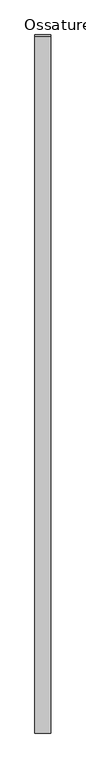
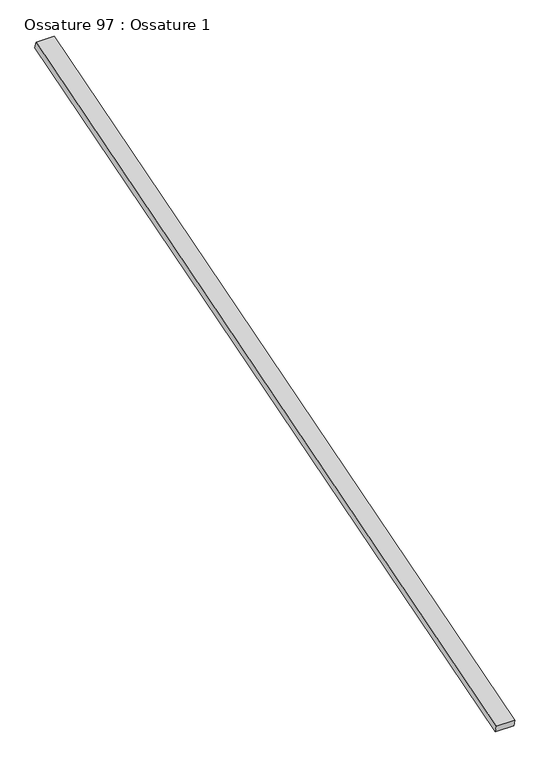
"""IFC4 building model written with IfcOpenShell, lengths in millimetres: beam geometry, Ossature 97 : Ossature 1."""

from ifc_helpers import new_model, si_unit, frame, origin, place, context, project, spatial, polyline, outline, extrude, source, transform, mapped, element, save


def ossature_97_ossature_1_c12d4031(model_context):
    return source(origin(), model_context, "Body", "SweptSolid", [
        extrude(outline(polyline([(0.0, 0.0), (0.0, -4543.0299679), (-100.0, -4543.0299679), (-100.0, 0.0), (0.0, 0.0)])), frame((23382.2466393, -833.3913565, 8153.6336115), z_axis=(0.0, -0.28734788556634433, 0.9578262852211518), x_axis=(-1.0, 0.0, 0.0)), (0.0, 0.0, 1.0), 40.0),
    ])


if __name__ == "__main__":
    model = new_model("IFC4")
    model_context = context("Model", 3, world=origin())
    ifc_project = project(units=[si_unit("LENGTHUNIT", "METRE", prefix="MILLI")], contexts=[model_context])
    site = spatial("IfcSite", under=ifc_project)
    building = spatial("IfcBuilding", under=site)
    placement = place(None, origin())
    ossature_97_ossature_1_shape = ossature_97_ossature_1_c12d4031(model_context)
    element("IfcBeam", 1, ObjectType="Ossature 97 : Ossature 1", at=placement, inside=building, context=model_context, shape_type="MappedRepresentation", body=[
        mapped(ossature_97_ossature_1_shape, transform((0.0, 0.0, 0.0), x_axis=(1.0, 0.0, 0.0), y_axis=(0.0, 1.0, 0.0), z_axis=(0.0, 0.0, 1.0))),
    ])
    save(model, "model.ifc")
